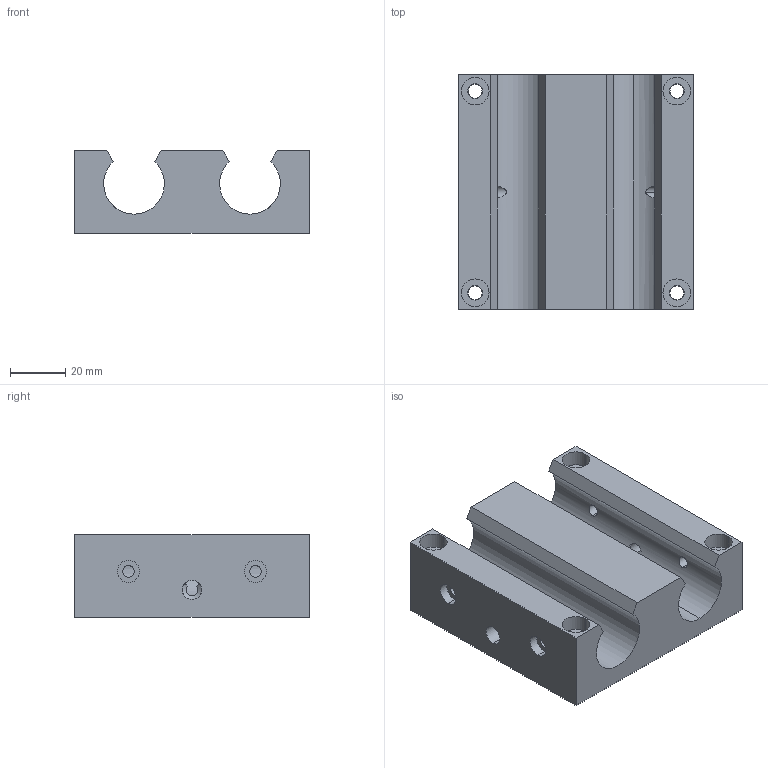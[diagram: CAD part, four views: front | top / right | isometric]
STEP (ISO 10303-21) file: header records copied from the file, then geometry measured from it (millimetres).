
FILE_DESCRIPTION (( 'STEP AP214' ), '1' );
FILE_NAME ('KQSO-12.step', '2020-03-04T13:34:43', ( '' ), ( '' ), 'SwSTEP 2.0', 'SolidWorks 2019', '' );
FILE_SCHEMA (( 'AUTOMOTIVE_DESIGN' ));
Length unit declared in the file: millimetre
Products named in the file (1): KQSO-12
Bounding box: 85 x 85 x 30 mm (x, y, z)
Volume: 139761.4 mm3; surface area: 33365.9 mm2
Topology: 1 solids, 1 shells, 83 faces, 201 edges, 131 vertices
Faces by surface type: cylinder 52, plane 24, cone 7
Entity records: 3067 total; most frequent: CARTESIAN_POINT 777, DIRECTION 443, ORIENTED_EDGE 398, EDGE_CURVE 199, AXIS2_PLACEMENT_3D 179, VERTEX_POINT 131, EDGE_LOOP 116, CIRCLE 95
